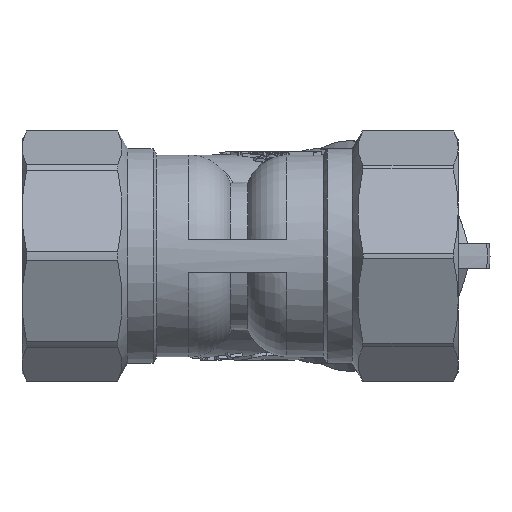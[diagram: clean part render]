
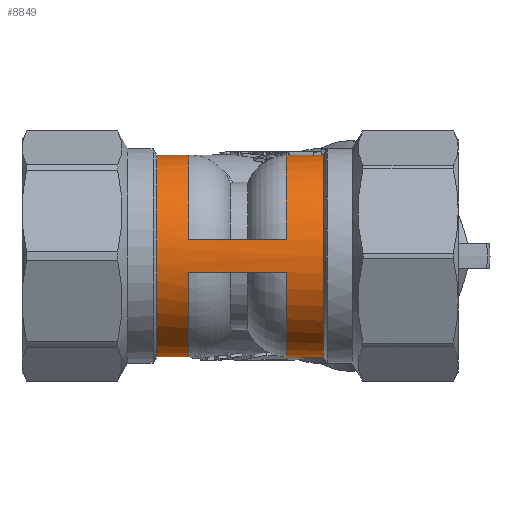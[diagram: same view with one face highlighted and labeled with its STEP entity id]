
A CAD part, front view. The second image highlights one B-rep face of the part: STEP entity #8849.
In plain terms, the highlighted cylindrical face has radius 15.75 mm (diameter 31.5 mm), a partial arc.
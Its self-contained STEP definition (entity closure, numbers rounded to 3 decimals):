
#96=FACE_BOUND('',#1430,.T.);
#118=ELLIPSE('',#9106,22.274,15.75);
#119=ELLIPSE('',#9111,41.157,15.75);
#122=ELLIPSE('',#9115,41.157,15.75);
#125=ELLIPSE('',#9168,22.274,15.75);
#280=CIRCLE('',#9143,15.75);
#281=CIRCLE('',#9146,15.75);
#282=CIRCLE('',#9148,15.75);
#289=CIRCLE('',#9162,15.75);
#290=CIRCLE('',#9163,15.75);
#291=CIRCLE('',#9164,15.75);
#292=CIRCLE('',#9165,15.75);
#293=CIRCLE('',#9166,15.75);
#294=CIRCLE('',#9167,15.75);
#295=CIRCLE('',#9169,15.75);
#296=CIRCLE('',#9170,15.75);
#484=CYLINDRICAL_SURFACE('',#9161,15.75);
#899=FACE_OUTER_BOUND('',#1429,.T.);
#1429=EDGE_LOOP('',(#7186,#7187,#7188,#7189,#7190,#7191,#7192,#7193,#7194,
#7195,#7196,#7197,#7198,#7199,#7200,#7201));
#1430=EDGE_LOOP('',(#7202,#7203,#7204,#7205,#7206,#7207,#7208));
#1916=LINE('',#19532,#2304);
#1922=LINE('',#19587,#2310);
#1925=LINE('',#19728,#2313);
#1926=LINE('',#19747,#2314);
#2304=VECTOR('',#9869,10.);
#2310=VECTOR('',#9885,10.);
#2313=VECTOR('',#9908,10.);
#2314=VECTOR('',#9911,10.);
#2509=B_SPLINE_CURVE_WITH_KNOTS('',3,(#11933,#11934,#11935,#11936),
 .UNSPECIFIED.,.F.,.F.,(4,4),(0.222,0.246),
 .UNSPECIFIED.);
#2514=B_SPLINE_CURVE_WITH_KNOTS('',3,(#12007,#12008,#12009,#12010),
 .UNSPECIFIED.,.F.,.F.,(4,4),(0.675,0.7),
 .UNSPECIFIED.);
#2986=B_SPLINE_CURVE_WITH_KNOTS('',3,(#19555,#19556,#19557,#19558),
 .UNSPECIFIED.,.F.,.F.,(4,4),(0.,0.089),.UNSPECIFIED.);
#2987=B_SPLINE_CURVE_WITH_KNOTS('',3,(#19577,#19578,#19579,#19580),
 .UNSPECIFIED.,.F.,.F.,(4,4),(0.,0.089),.UNSPECIFIED.);
#3231=VERTEX_POINT('',#11931);
#3232=VERTEX_POINT('',#11932);
#3240=VERTEX_POINT('',#11999);
#3241=VERTEX_POINT('',#12005);
#3242=VERTEX_POINT('',#12006);
#3249=VERTEX_POINT('',#12074);
#3250=VERTEX_POINT('',#12085);
#3259=VERTEX_POINT('',#12122);
#3260=VERTEX_POINT('',#12127);
#3725=VERTEX_POINT('',#19525);
#3726=VERTEX_POINT('',#19526);
#3727=VERTEX_POINT('',#19531);
#3728=VERTEX_POINT('',#19535);
#3729=VERTEX_POINT('',#19554);
#3730=VERTEX_POINT('',#19576);
#3731=VERTEX_POINT('',#19583);
#3743=VERTEX_POINT('',#19696);
#3745=VERTEX_POINT('',#19713);
#3746=VERTEX_POINT('',#19730);
#3748=VERTEX_POINT('',#19746);
#3750=VERTEX_POINT('',#19768);
#3751=VERTEX_POINT('',#19771);
#3752=VERTEX_POINT('',#19774);
#4207=EDGE_CURVE('',#3231,#3232,#2509,.T.);
#4217=EDGE_CURVE('',#3232,#3240,#118,.T.);
#4218=EDGE_CURVE('',#3241,#3242,#2514,.F.);
#4227=EDGE_CURVE('',#3250,#3249,#119,.T.);
#4237=EDGE_CURVE('',#3260,#3259,#122,.T.);
#4931=EDGE_CURVE('',#3725,#3726,#280,.T.);
#4934=EDGE_CURVE('',#3727,#3725,#1916,.T.);
#4936=EDGE_CURVE('',#3728,#3727,#281,.T.);
#4938=EDGE_CURVE('',#3729,#3728,#2986,.T.);
#4940=EDGE_CURVE('',#3730,#3729,#2987,.T.);
#4942=EDGE_CURVE('',#3731,#3730,#282,.T.);
#4944=EDGE_CURVE('',#3726,#3731,#1922,.T.);
#4960=EDGE_CURVE('',#3745,#3743,#1925,.T.);
#4962=EDGE_CURVE('',#3746,#3748,#1926,.T.);
#4965=EDGE_CURVE('',#3260,#3746,#289,.T.);
#4966=EDGE_CURVE('',#3259,#3250,#290,.T.);
#4967=EDGE_CURVE('',#3743,#3249,#291,.T.);
#4968=EDGE_CURVE('',#3745,#3750,#292,.T.);
#4969=EDGE_CURVE('',#3750,#3231,#293,.T.);
#4970=EDGE_CURVE('',#3751,#3240,#294,.T.);
#4971=EDGE_CURVE('',#3751,#3242,#125,.T.);
#4972=EDGE_CURVE('',#3752,#3241,#295,.F.);
#4973=EDGE_CURVE('',#3752,#3748,#296,.T.);
#7186=ORIENTED_EDGE('',*,*,#4965,.F.);
#7187=ORIENTED_EDGE('',*,*,#4237,.T.);
#7188=ORIENTED_EDGE('',*,*,#4966,.T.);
#7189=ORIENTED_EDGE('',*,*,#4227,.T.);
#7190=ORIENTED_EDGE('',*,*,#4967,.F.);
#7191=ORIENTED_EDGE('',*,*,#4960,.F.);
#7192=ORIENTED_EDGE('',*,*,#4968,.T.);
#7193=ORIENTED_EDGE('',*,*,#4969,.T.);
#7194=ORIENTED_EDGE('',*,*,#4207,.T.);
#7195=ORIENTED_EDGE('',*,*,#4217,.T.);
#7196=ORIENTED_EDGE('',*,*,#4970,.F.);
#7197=ORIENTED_EDGE('',*,*,#4971,.T.);
#7198=ORIENTED_EDGE('',*,*,#4218,.F.);
#7199=ORIENTED_EDGE('',*,*,#4972,.F.);
#7200=ORIENTED_EDGE('',*,*,#4973,.T.);
#7201=ORIENTED_EDGE('',*,*,#4962,.F.);
#7202=ORIENTED_EDGE('',*,*,#4931,.T.);
#7203=ORIENTED_EDGE('',*,*,#4944,.T.);
#7204=ORIENTED_EDGE('',*,*,#4942,.T.);
#7205=ORIENTED_EDGE('',*,*,#4940,.T.);
#7206=ORIENTED_EDGE('',*,*,#4938,.T.);
#7207=ORIENTED_EDGE('',*,*,#4936,.T.);
#7208=ORIENTED_EDGE('',*,*,#4934,.T.);
#8849=ADVANCED_FACE('',(#899,#96),#484,.T.);
#9106=AXIS2_PLACEMENT_3D('',#12003,#9560,#9561);
#9111=AXIS2_PLACEMENT_3D('',#12086,#9570,#9571);
#9115=AXIS2_PLACEMENT_3D('',#12128,#9578,#9579);
#9143=AXIS2_PLACEMENT_3D('',#19527,#9863,#9864);
#9146=AXIS2_PLACEMENT_3D('',#19536,#9873,#9874);
#9148=AXIS2_PLACEMENT_3D('',#19584,#9880,#9881);
#9161=AXIS2_PLACEMENT_3D('',#19764,#9913,#9914);
#9162=AXIS2_PLACEMENT_3D('',#19765,#9915,#9916);
#9163=AXIS2_PLACEMENT_3D('',#19766,#9917,#9918);
#9164=AXIS2_PLACEMENT_3D('',#19767,#9919,#9920);
#9165=AXIS2_PLACEMENT_3D('',#19769,#9921,#9922);
#9166=AXIS2_PLACEMENT_3D('',#19770,#9923,#9924);
#9167=AXIS2_PLACEMENT_3D('',#19772,#9925,#9926);
#9168=AXIS2_PLACEMENT_3D('',#19773,#9927,#9928);
#9169=AXIS2_PLACEMENT_3D('',#19775,#9929,#9930);
#9170=AXIS2_PLACEMENT_3D('',#19776,#9931,#9932);
#9560=DIRECTION('center_axis',(-0.707,-0.707,0.));
#9561=DIRECTION('ref_axis',(0.707,-0.707,0.));
#9570=DIRECTION('center_axis',(0.383,-0.924,0.));
#9571=DIRECTION('ref_axis',(-0.924,-0.383,0.));
#9578=DIRECTION('center_axis',(0.383,-0.924,0.));
#9579=DIRECTION('ref_axis',(-0.924,-0.383,0.));
#9863=DIRECTION('center_axis',(-1.,0.,0.));
#9864=DIRECTION('ref_axis',(0.,-1.,0.));
#9869=DIRECTION('',(-1.,0.,0.));
#9873=DIRECTION('center_axis',(-1.,0.,0.));
#9874=DIRECTION('ref_axis',(0.,-1.,0.));
#9880=DIRECTION('center_axis',(-1.,0.,0.));
#9881=DIRECTION('ref_axis',(0.,-1.,0.));
#9885=DIRECTION('',(1.,0.,0.));
#9908=DIRECTION('',(1.,0.,0.));
#9911=DIRECTION('',(-1.,0.,0.));
#9913=DIRECTION('center_axis',(-1.,0.,0.));
#9914=DIRECTION('ref_axis',(0.,-1.,0.));
#9915=DIRECTION('center_axis',(-1.,0.,0.));
#9916=DIRECTION('ref_axis',(0.,0.,1.));
#9917=DIRECTION('center_axis',(-1.,0.,0.));
#9918=DIRECTION('ref_axis',(0.,0.,1.));
#9919=DIRECTION('center_axis',(-1.,0.,0.));
#9920=DIRECTION('ref_axis',(0.,0.,1.));
#9921=DIRECTION('center_axis',(-1.,0.,0.));
#9922=DIRECTION('ref_axis',(0.,0.,1.));
#9923=DIRECTION('center_axis',(-1.,0.,0.));
#9924=DIRECTION('ref_axis',(0.,0.,1.));
#9925=DIRECTION('center_axis',(-1.,0.,0.));
#9926=DIRECTION('ref_axis',(0.,0.,1.));
#9927=DIRECTION('center_axis',(-0.707,-0.707,0.));
#9928=DIRECTION('ref_axis',(0.707,-0.707,0.));
#9929=DIRECTION('center_axis',(-1.,0.,0.));
#9930=DIRECTION('ref_axis',(0.,0.,1.));
#9931=DIRECTION('center_axis',(-1.,0.,0.));
#9932=DIRECTION('ref_axis',(0.,0.,1.));
#11931=CARTESIAN_POINT('',(-42.,5.448,14.778));
#11932=CARTESIAN_POINT('',(-42.27,5.705,14.68));
#11933=CARTESIAN_POINT('Ctrl Pts',(-42.,5.448,14.778));
#11934=CARTESIAN_POINT('Ctrl Pts',(-42.092,5.532,14.747));
#11935=CARTESIAN_POINT('Ctrl Pts',(-42.182,5.618,14.714));
#11936=CARTESIAN_POINT('Ctrl Pts',(-42.27,5.705,14.68));
#11999=CARTESIAN_POINT('',(-47.,10.435,11.797));
#12003=CARTESIAN_POINT('Origin',(-36.565,0.,
0.));
#12005=CARTESIAN_POINT('',(-42.,5.448,-14.778));
#12006=CARTESIAN_POINT('',(-42.27,5.705,-14.68));
#12007=CARTESIAN_POINT('Ctrl Pts',(-42.27,5.705,-14.68));
#12008=CARTESIAN_POINT('Ctrl Pts',(-42.183,5.618,-14.714));
#12009=CARTESIAN_POINT('Ctrl Pts',(-42.092,5.532,-14.747));
#12010=CARTESIAN_POINT('Ctrl Pts',(-42.,5.448,-14.778));
#12074=CARTESIAN_POINT('',(-26.789,9.614,12.475));
#12085=CARTESIAN_POINT('',(-21.,12.012,10.187));
#12086=CARTESIAN_POINT('Origin',(-50.,0.,
0.));
#12122=CARTESIAN_POINT('',(-21.,12.012,-10.187));
#12127=CARTESIAN_POINT('',(-26.789,9.614,-12.475));
#12128=CARTESIAN_POINT('Origin',(-50.,0.,
0.));
#19525=CARTESIAN_POINT('',(-26.319,-0.983,15.719));
#19526=CARTESIAN_POINT('',(-26.319,1.015,15.717));
#19527=CARTESIAN_POINT('Origin',(-26.319,0.,
0.));
#19531=CARTESIAN_POINT('',(-22.569,-0.983,15.719));
#19532=CARTESIAN_POINT('',(-23.895,-0.983,15.719));
#19535=CARTESIAN_POINT('',(-22.569,-1.381,15.689));
#19536=CARTESIAN_POINT('Origin',(-22.569,0.,
0.));
#19554=CARTESIAN_POINT('',(-21.319,0.016,15.75));
#19555=CARTESIAN_POINT('Ctrl Pts',(-21.319,0.016,
15.75));
#19556=CARTESIAN_POINT('Ctrl Pts',(-21.736,-0.45,
15.75));
#19557=CARTESIAN_POINT('Ctrl Pts',(-22.152,-0.917,
15.73));
#19558=CARTESIAN_POINT('Ctrl Pts',(-22.569,-1.381,
15.689));
#19576=CARTESIAN_POINT('',(-22.569,1.413,15.686));
#19577=CARTESIAN_POINT('Ctrl Pts',(-22.569,1.413,15.686));
#19578=CARTESIAN_POINT('Ctrl Pts',(-22.152,0.949,
15.728));
#19579=CARTESIAN_POINT('Ctrl Pts',(-21.736,0.483,
15.75));
#19580=CARTESIAN_POINT('Ctrl Pts',(-21.319,0.016,
15.75));
#19583=CARTESIAN_POINT('',(-22.569,1.015,15.717));
#19584=CARTESIAN_POINT('Origin',(-22.569,0.,
0.));
#19587=CARTESIAN_POINT('',(-23.895,1.015,15.717));
#19696=CARTESIAN_POINT('',(-26.789,-15.551,2.497));
#19713=CARTESIAN_POINT('',(-42.,-15.551,2.497));
#19728=CARTESIAN_POINT('',(-0.876,-15.551,2.497));
#19730=CARTESIAN_POINT('',(-26.789,-15.55,-2.503));
#19746=CARTESIAN_POINT('',(-42.,-15.55,-2.503));
#19747=CARTESIAN_POINT('',(-0.876,-15.55,-2.503));
#19764=CARTESIAN_POINT('Origin',(-23.895,0.,
0.));
#19765=CARTESIAN_POINT('Origin',(-26.789,0.,
0.));
#19766=CARTESIAN_POINT('Origin',(-21.,0.,
0.));
#19767=CARTESIAN_POINT('Origin',(-26.789,0.,
0.));
#19768=CARTESIAN_POINT('',(-42.,5.435,14.783));
#19769=CARTESIAN_POINT('Origin',(-42.,0.,
0.));
#19770=CARTESIAN_POINT('Origin',(-42.,0.,
0.));
#19771=CARTESIAN_POINT('',(-47.,10.435,-11.797));
#19772=CARTESIAN_POINT('Origin',(-47.,0.,
0.));
#19773=CARTESIAN_POINT('Origin',(-36.565,0.,
0.));
#19774=CARTESIAN_POINT('',(-42.,5.435,-14.783));
#19775=CARTESIAN_POINT('Origin',(-42.,0.,
0.));
#19776=CARTESIAN_POINT('Origin',(-42.,0.,
0.));
